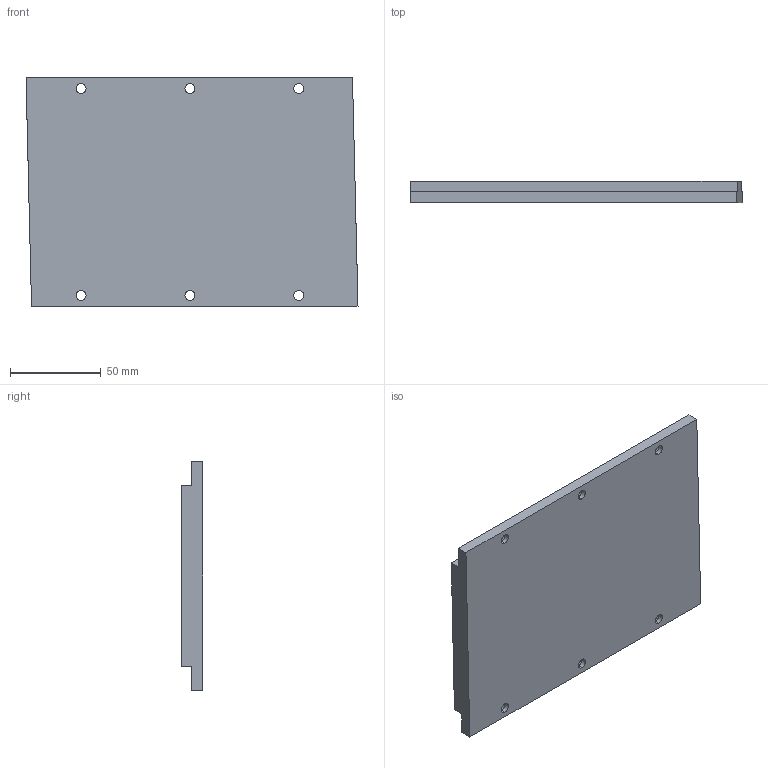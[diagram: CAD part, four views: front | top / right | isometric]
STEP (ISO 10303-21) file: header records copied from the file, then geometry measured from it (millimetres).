
FILE_DESCRIPTION (( 'STEP AP203' ), '1' );
FILE_NAME ('LMSACS2E.STEP', '2016-03-09T04:00:12', ( '' ), ( '' ), 'SwSTEP 2.0', 'SolidWorks 2010', '' );
FILE_SCHEMA (( 'CONFIG_CONTROL_DESIGN' ));
Length unit declared in the file: millimetre
Products named in the file (1): LMSACS2E
Bounding box: 183.04 x 11.7 x 126 mm (x, y, z)
Volume: 237388.9 mm3; surface area: 52882 mm2
Topology: 1 solids, 1 shells, 67 faces, 171 edges, 114 vertices
Faces by surface type: plane 32, cylinder 24, bspline 11
Entity records: 2924 total; most frequent: CARTESIAN_POINT 1220, ORIENTED_EDGE 342, DIRECTION 311, EDGE_CURVE 171, VERTEX_POINT 114, AXIS2_PLACEMENT_3D 105, VECTOR 101, LINE 101
